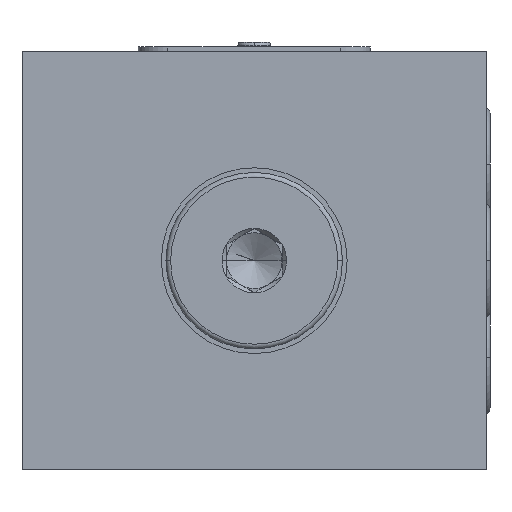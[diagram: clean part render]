
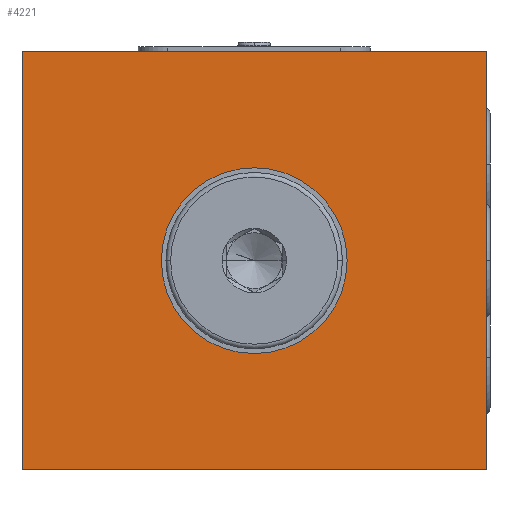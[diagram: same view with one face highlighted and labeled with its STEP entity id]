
A CAD part, left-side view. The second image highlights one B-rep face of the part: STEP entity #4221.
In plain terms, the highlighted planar face has unit normal (-1, 0, 0).
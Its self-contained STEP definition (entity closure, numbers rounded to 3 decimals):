
#56=DIRECTION('',(0.,0.,-1.));
#57=VECTOR('',#56,45.);
#58=CARTESIAN_POINT('',(0.,0.,0.));
#59=LINE('',#58,#57);
#63=DIRECTION('',(0.,1.,0.));
#64=VECTOR('',#63,50.);
#65=CARTESIAN_POINT('',(0.,0.,-45.));
#66=LINE('',#65,#64);
#70=DIRECTION('',(0.,0.,1.));
#71=VECTOR('',#70,45.);
#72=CARTESIAN_POINT('',(0.,50.,-45.));
#73=LINE('',#72,#71);
#77=DIRECTION('',(0.,-1.,0.));
#78=VECTOR('',#77,50.);
#79=CARTESIAN_POINT('',(0.,50.,0.));
#80=LINE('',#79,#78);
#84=CARTESIAN_POINT('',(0.,25.,-22.5));
#85=DIRECTION('',(1.,0.,0.));
#86=DIRECTION('',(0.,-1.,0.));
#87=AXIS2_PLACEMENT_3D('',#84,#85,#86);
#92=CARTESIAN_POINT('',(0.,25.,-22.5));
#93=DIRECTION('',(1.,0.,0.));
#94=DIRECTION('',(0.,1.,0.));
#95=AXIS2_PLACEMENT_3D('',#92,#93,#94);
#3860=CARTESIAN_POINT('',(0.,0.,0.));
#3861=CARTESIAN_POINT('',(0.,0.,-45.));
#3862=VERTEX_POINT('',#3860);
#3863=VERTEX_POINT('',#3861);
#3864=CARTESIAN_POINT('',(0.,50.,-45.));
#3865=VERTEX_POINT('',#3864);
#3866=CARTESIAN_POINT('',(0.,50.,0.));
#3867=VERTEX_POINT('',#3866);
#4136=CARTESIAN_POINT('',(0.,15.,-22.5));
#4137=VERTEX_POINT('',#4136);
#4138=CARTESIAN_POINT('',(0.,35.,-22.5));
#4139=VERTEX_POINT('',#4138);
#4200=CARTESIAN_POINT('',(0.,0.,0.));
#4201=DIRECTION('',(1.,0.,0.));
#4202=DIRECTION('',(0.,0.,-1.));
#4203=AXIS2_PLACEMENT_3D('',#4200,#4201,#4202);
#4204=PLANE('',#4203);
#4206=ORIENTED_EDGE('',*,*,#4205,.T.);
#4208=ORIENTED_EDGE('',*,*,#4207,.T.);
#4210=ORIENTED_EDGE('',*,*,#4209,.T.);
#4212=ORIENTED_EDGE('',*,*,#4211,.T.);
#4213=EDGE_LOOP('',(#4206,#4208,#4210,#4212));
#4214=FACE_OUTER_BOUND('',#4213,.F.);
#4216=ORIENTED_EDGE('',*,*,#4215,.F.);
#4218=ORIENTED_EDGE('',*,*,#4217,.F.);
#4219=EDGE_LOOP('',(#4216,#4218));
#4220=FACE_BOUND('',#4219,.F.);
#88=CIRCLE('',#87,10.);
#96=CIRCLE('',#95,10.);
#4205=EDGE_CURVE('',#3862,#3863,#59,.T.);
#4207=EDGE_CURVE('',#3863,#3865,#66,.T.);
#4209=EDGE_CURVE('',#3865,#3867,#73,.T.);
#4211=EDGE_CURVE('',#3867,#3862,#80,.T.);
#4215=EDGE_CURVE('',#4137,#4139,#88,.T.);
#4217=EDGE_CURVE('',#4139,#4137,#96,.T.);
#4221=ADVANCED_FACE('',(#4214,#4220),#4204,.F.);
